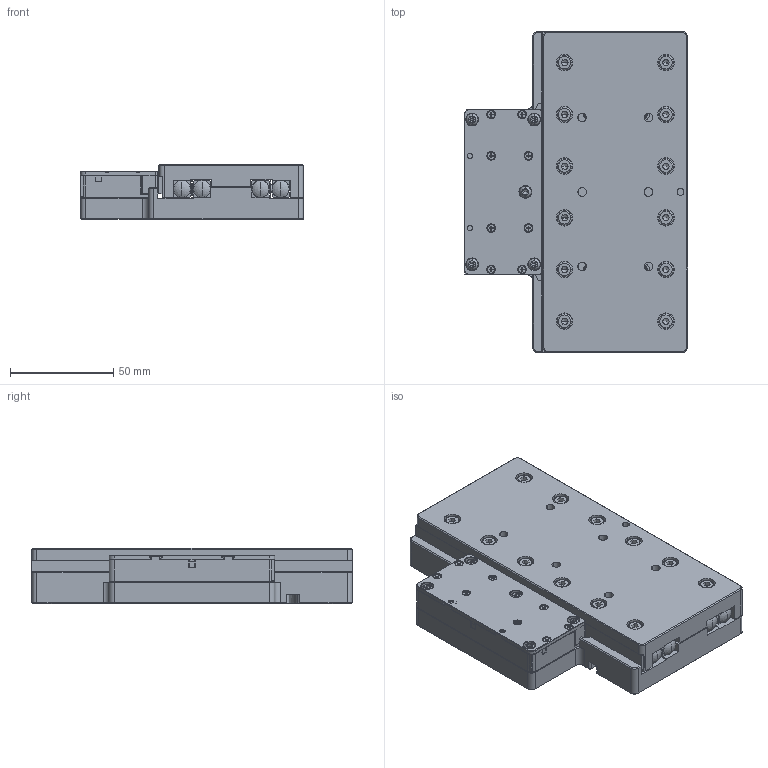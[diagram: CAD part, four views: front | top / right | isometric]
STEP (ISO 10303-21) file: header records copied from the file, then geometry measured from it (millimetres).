
FILE_DESCRIPTION (( 'STEP AP203' ), '1' );
FILE_NAME ('0770v.STEP', '2023-04-26T06:00:31', ( '微软用户' ), ( '微软中国' ), 'SwSTEP 2.0', 'SolidWorks 2021', '' );
FILE_SCHEMA (( 'CONFIG_CONTROL_DESIGN' ));
Products named in the file (1): 0770v
Bounding box: 108 x 155 x 27 mm (x, y, z)
Volume: 340594.7 mm3; surface area: 136866 mm2
Topology: 30 solids, 32 shells, 3239 faces, 8417 edges, 5325 vertices
Faces by surface type: plane 1788, cylinder 916, cone 465, torus 36, bspline 24, sphere 10
Entity records: 99649 total; most frequent: CARTESIAN_POINT 18649, DIRECTION 16976, ORIENTED_EDGE 16730, EDGE_CURVE 8365, AXIS2_PLACEMENT_3D 5684, LINE 5608, VECTOR 5608, VERTEX_POINT 5325
